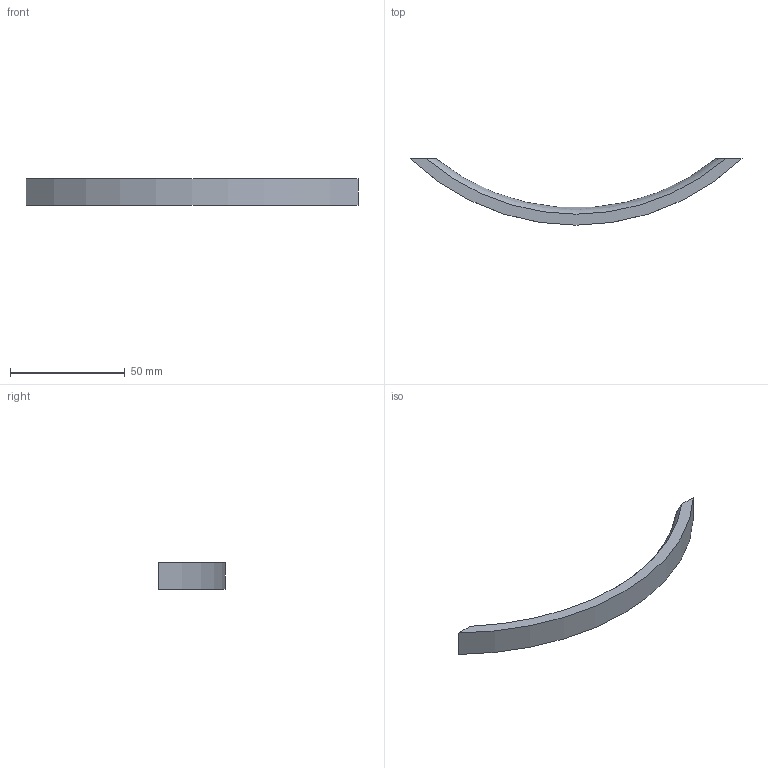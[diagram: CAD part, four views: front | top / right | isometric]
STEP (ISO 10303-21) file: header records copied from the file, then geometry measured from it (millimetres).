
FILE_DESCRIPTION( ( '' ), '1' );
FILE_NAME( 'C:/Documents and Settings/Sachin/Desktop/Sheet 10_1/stp/74134.stp', '2013-10-22T08:42:51', ( '' ), ( '' ), ' ', ' ', ' ' );
FILE_SCHEMA( ( 'CONFIG_CONTROL_DESIGN' ) );
Length unit declared in the file: millimetre
Products named in the file (1): 1
Bounding box: 144.98 x 29 x 11.5 mm (x, y, z)
Volume: 11257.9 mm3; surface area: 5392.3 mm2
Topology: 1 solids, 1 shells, 13 faces, 27 edges, 18 vertices
Faces by surface type: plane 6, cylinder 5, torus 2
Entity records: 554 total; most frequent: CARTESIAN_POINT 223, DIRECTION 64, ORIENTED_EDGE 54, AXIS2_PLACEMENT_3D 27, EDGE_CURVE 27, VERTEX_POINT 18, EDGE_LOOP 15, ADVANCED_FACE 13
